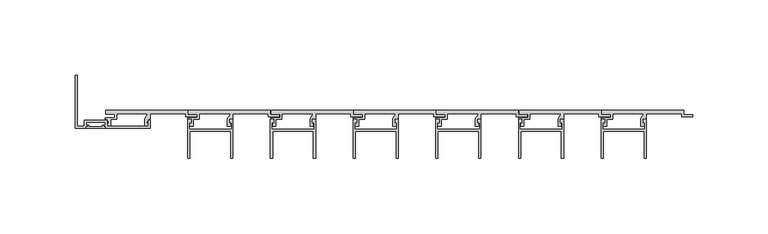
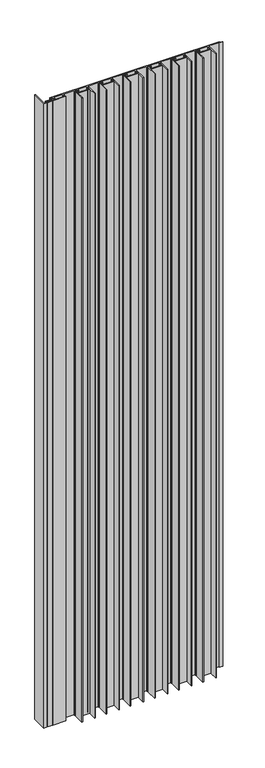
"""IFC4 building model written with IfcOpenShell, lengths in millimetres: proxy geometry, A_GEN_LINE_Small Base_Blade Cap_LTrim : A_GEN_LINE_Small Base_Blade Cap_LTrim."""

from ifc_helpers import new_model, si_unit, origin, origin_with_axes, place, context, project, spatial, polyline, outline, extrude, source, transform, mapped, element, save


def generic_models_7a0f7bea(model_context):
    return source(origin(), model_context, "Body", "SweptSolid", [
        extrude(outline(polyline([(-13.0106499, -11.8818695), (-13.0106499, -10.9050009), (-12.1106499, -10.9050009), (-12.1106499, -10.0050009), (-11.2354943, -10.0050009), (-11.2354943, -10.9050009), (-2.1892046, -10.9050009), (-2.1892046, -10.0050009), (-1.314049, -10.0050009), (-1.314049, -10.9050009), (-0.414049, -10.9050009), (-0.414049, -11.8818695), (-13.0106499, -11.8818695)])), origin_with_axes(), (0.0, 0.0, 1.0), 1500.0),
        extrude(outline(polyline([(-0.414049, -10.9050009), (-1.314049, -10.9050009), (-1.314049, -10.0050009), (-0.414049, -10.0050009), (-0.414049, -7.8818695), (-13.0306499, -7.8818695), (-13.0306499, -10.0050009), (-12.1306499, -10.0050009), (-12.1306499, -10.9050009), (-13.0306499, -10.9050009), (-13.0306499, -11.8818695), (-20.3575953, -11.8818695), (-20.3575953, 23.3746551), (-18.9575953, 23.3746551), (-18.9575953, -10.4818695), (-14.4306499, -10.4818695), (-14.4306499, -6.4818695), (0.985951, -6.4818695), (0.985951, -10.4818695), (28.1839928, -10.4818695), (28.1839928, -6.4818695), (29.5839928, -6.4818695), (29.5839928, -11.8818695), (-0.414049, -11.8818695), (-0.414049, -10.9050009)])), origin_with_axes(), (0.0, 0.0, 1.0), 1500.0),
        extrude(outline(polyline([(329.5935072, -32.0289818), (329.5935072, -6.1), (331.8182244, -6.1), (331.8182244, -8.3419727), (330.5118276, -8.7617834), (330.5118276, -12.5079436), (358.6751868, -12.5079436), (358.6751868, -8.7374539), (357.4445002, -8.3419727), (357.4445002, -6.1), (359.5935072, -6.1), (359.5935072, -32.0289818), (358.1935072, -32.0289818), (358.1935072, -13.9079436), (330.9935072, -13.9079436), (330.9935072, -32.0289818), (329.5935072, -32.0289818)])), origin_with_axes(), (0.0, 0.0, 1.0), 1500.0),
        extrude(outline(polyline([(274.5919, -32.0289818), (274.5919, -6.1), (276.8166172, -6.1), (276.8166172, -8.3419727), (275.5102205, -8.7617834), (275.5102205, -12.5079436), (303.6735796, -12.5079436), (303.6735796, -8.7374539), (302.4428931, -8.3419727), (302.4428931, -6.1), (304.5919, -6.1), (304.5919, -32.0289818), (303.1919, -32.0289818), (303.1919, -13.9079436), (275.9919, -13.9079436), (275.9919, -32.0289818), (274.5919, -32.0289818)])), origin_with_axes(), (0.0, 0.0, 1.0), 1500.0),
        extrude(outline(polyline([(219.5902928, -32.0289818), (219.5902928, -6.1), (221.81501, -6.1), (221.81501, -8.3419727), (220.5086133, -8.7617834), (220.5086133, -12.5079436), (248.6719724, -12.5079436), (248.6719724, -8.7374539), (247.4412859, -8.3419727), (247.4412859, -6.1), (249.5902928, -6.1), (249.5902928, -32.0289818), (248.1902928, -32.0289818), (248.1902928, -13.9079436), (220.9902928, -13.9079436), (220.9902928, -32.0289818), (219.5902928, -32.0289818)])), origin_with_axes(), (0.0, 0.0, 1.0), 1500.0),
        extrude(outline(polyline([(164.5886856, -32.0289818), (164.5886856, -6.1), (166.8134028, -6.1), (166.8134028, -8.3419727), (165.5070061, -8.7617834), (165.5070061, -12.5079436), (193.6703652, -12.5079436), (193.6703652, -8.7374539), (192.4396787, -8.3419727), (192.4396787, -6.1), (194.5886856, -6.1), (194.5886856, -32.0289818), (193.1886856, -32.0289818), (193.1886856, -13.9079436), (165.9886856, -13.9079436), (165.9886856, -32.0289818), (164.5886856, -32.0289818)])), origin_with_axes(), (0.0, 0.0, 1.0), 1500.0),
        extrude(outline(polyline([(109.5870785, -32.0289818), (109.5870785, -6.1), (111.8117956, -6.1), (111.8117956, -8.3419727), (110.5053989, -8.7617834), (110.5053989, -12.5079436), (138.668758, -12.5079436), (138.668758, -8.7374539), (137.4380715, -8.3419727), (137.4380715, -6.1), (139.5870785, -6.1), (139.5870785, -32.0289818), (138.1870785, -32.0289818), (138.1870785, -13.9079436), (110.9870785, -13.9079436), (110.9870785, -32.0289818), (109.5870785, -32.0289818)])), origin_with_axes(), (0.0, 0.0, 1.0), 1500.0),
        extrude(outline(polyline([(54.5854713, -32.0289818), (54.5854713, -6.1), (56.8101884, -6.1), (56.8101884, -8.3419727), (55.5037917, -8.7617834), (55.5037917, -12.5079436), (83.6671508, -12.5079436), (83.6671508, -8.7374539), (82.4364643, -8.3419727), (82.4364643, -6.1), (84.5854713, -6.1), (84.5854713, -32.0289818), (83.1854713, -32.0289818), (83.1854713, -13.9079436), (55.9854713, -13.9079436), (55.9854713, -32.0289818), (54.5854713, -32.0289818)])), origin_with_axes(), (0.0, 0.0, 1.0), 1500.0),
        extrude(outline(polyline([(330.0, 0.0), (384.5728944, 0.0), (384.5728944, -2.85), (390.5728944, -2.85), (390.5728944, -4.2), (383.0545393, -4.2), (383.0545393, -2.4), (359.5849719, -2.4), (359.5849719, -6.1021884), (358.4699984, -6.1021884), (356.8814326, -8.4994005), (358.1433665, -8.4994005), (358.1433665, -10.4818695), (355.9408405, -10.4818695), (355.9408405, -5.6343123), (358.0399616, -2.4), (337.2195527, -2.4), (337.2195527, -6.1), (333.2291033, -6.1), (333.2291033, -10.4818695), (331.0265772, -10.4818695), (331.0265772, -8.4994005), (332.2885111, -8.4994005), (330.6999453, -6.1021884), (329.6137598, -6.1021884), (329.6137598, -4.9), (336.0195527, -4.9), (336.0195527, -2.7), (330.0, -2.7), (330.0, 0.0)])), origin_with_axes(), (0.0, 0.0, 1.0), 1500.0),
        extrude(outline(polyline([(275.0, 0.0), (329.5728944, 0.0), (329.5728944, -2.85), (335.5728944, -2.85), (335.5728944, -4.2), (328.0545393, -4.2), (328.0545393, -2.4), (304.5849719, -2.4), (304.5849719, -6.1021884), (303.4699984, -6.1021884), (301.8814326, -8.4994005), (303.1433665, -8.4994005), (303.1433665, -10.4818695), (300.9408405, -10.4818695), (300.9408405, -5.6343123), (303.0399616, -2.4), (282.2195527, -2.4), (282.2195527, -6.1), (278.2291033, -6.1), (278.2291033, -10.4818695), (276.0265772, -10.4818695), (276.0265772, -8.4994005), (277.2885111, -8.4994005), (275.6999453, -6.1021884), (274.6137598, -6.1021884), (274.6137598, -4.9), (281.0195527, -4.9), (281.0195527, -2.7), (275.0, -2.7), (275.0, 0.0)])), origin_with_axes(), (0.0, 0.0, 1.0), 1500.0),
        extrude(outline(polyline([(220.0, 0.0), (274.5728944, 0.0), (274.5728944, -2.85), (280.5728944, -2.85), (280.5728944, -4.2), (273.0545393, -4.2), (273.0545393, -2.4), (249.5849719, -2.4), (249.5849719, -6.1021884), (248.4699984, -6.1021884), (246.8814326, -8.4994005), (248.1433665, -8.4994005), (248.1433665, -10.4818695), (245.9408405, -10.4818695), (245.9408405, -5.6343123), (248.0399616, -2.4), (227.2195527, -2.4), (227.2195527, -6.1), (223.2291033, -6.1), (223.2291033, -10.4818695), (221.0265772, -10.4818695), (221.0265772, -8.4994005), (222.2885111, -8.4994005), (220.6999453, -6.1021884), (219.6137598, -6.1021884), (219.6137598, -4.9), (226.0195527, -4.9), (226.0195527, -2.7), (220.0, -2.7), (220.0, 0.0)])), origin_with_axes(), (0.0, 0.0, 1.0), 1500.0),
        extrude(outline(polyline([(165.0, 0.0), (219.5728944, 0.0), (219.5728944, -2.85), (225.5728944, -2.85), (225.5728944, -4.2), (218.0545393, -4.2), (218.0545393, -2.4), (194.5849719, -2.4), (194.5849719, -6.1021884), (193.4699984, -6.1021884), (191.8814326, -8.4994005), (193.1433665, -8.4994005), (193.1433665, -10.4818695), (190.9408405, -10.4818695), (190.9408405, -5.6343123), (193.0399616, -2.4), (172.2195527, -2.4), (172.2195527, -6.1), (168.2291033, -6.1), (168.2291033, -10.4818695), (166.0265772, -10.4818695), (166.0265772, -8.4994005), (167.2885111, -8.4994005), (165.6999453, -6.1021884), (164.6137598, -6.1021884), (164.6137598, -4.9), (171.0195527, -4.9), (171.0195527, -2.7), (165.0, -2.7), (165.0, 0.0)])), origin_with_axes(), (0.0, 0.0, 1.0), 1500.0),
        extrude(outline(polyline([(110.0, 0.0), (164.5728944, 0.0), (164.5728944, -2.85), (170.5728944, -2.85), (170.5728944, -4.2), (163.0545393, -4.2), (163.0545393, -2.4), (139.5849719, -2.4), (139.5849719, -6.1021884), (138.4699984, -6.1021884), (136.8814326, -8.4994005), (138.1433665, -8.4994005), (138.1433665, -10.4818695), (135.9408405, -10.4818695), (135.9408405, -5.6343123), (138.0399616, -2.4), (117.2195527, -2.4), (117.2195527, -6.1), (113.2291033, -6.1), (113.2291033, -10.4818695), (111.0265772, -10.4818695), (111.0265772, -8.4994005), (112.2885111, -8.4994005), (110.6999453, -6.1021884), (109.6137598, -6.1021884), (109.6137598, -4.9), (116.0195527, -4.9), (116.0195527, -2.7), (110.0, -2.7), (110.0, 0.0)])), origin_with_axes(), (0.0, 0.0, 1.0), 1500.0),
        extrude(outline(polyline([(55.0, 0.0), (109.5728944, 0.0), (109.5728944, -2.85), (115.5728944, -2.85), (115.5728944, -4.2), (108.0545393, -4.2), (108.0545393, -2.4), (84.5849719, -2.4), (84.5849719, -6.1021884), (83.4699984, -6.1021884), (81.8814326, -8.4994005), (83.1433665, -8.4994005), (83.1433665, -10.4818695), (80.9408405, -10.4818695), (80.9408405, -5.6343123), (83.0399616, -2.4), (62.2195527, -2.4), (62.2195527, -6.1), (58.2291033, -6.1), (58.2291033, -10.4818695), (56.0265772, -10.4818695), (56.0265772, -8.4994005), (57.2885111, -8.4994005), (55.6999453, -6.1021884), (54.6137598, -6.1021884), (54.6137598, -4.9), (61.0195527, -4.9), (61.0195527, -2.7), (55.0, -2.7), (55.0, 0.0)])), origin_with_axes(), (0.0, 0.0, 1.0), 1500.0),
        extrude(outline(polyline([(0.0, 0.0), (54.5728944, 0.0), (54.5728944, -2.85), (60.5728944, -2.85), (60.5728944, -4.2), (53.0545393, -4.2), (53.0545393, -2.4), (29.5849719, -2.4), (29.5849719, -6.1021884), (28.4699984, -6.1021884), (26.8814326, -8.4994005), (28.1433665, -8.4994005), (28.1433665, -10.4818695), (25.9408405, -10.4818695), (25.9408405, -5.6343123), (28.0399616, -2.4), (7.2195527, -2.4), (7.2195527, -6.1), (3.2291033, -6.1), (3.2291033, -10.4818695), (1.0265772, -10.4818695), (1.0265772, -8.4994005), (2.2885111, -8.4994005), (0.6999453, -6.1021884), (-0.3862402, -6.1021884), (-0.3862402, -4.9), (6.0195527, -4.9), (6.0195527, -2.7), (0.0, -2.7), (0.0, 0.0)])), origin_with_axes(), (0.0, 0.0, 1.0), 1500.0),
    ])


if __name__ == "__main__":
    model = new_model("IFC4")
    model_context = context("Model", 3, world=origin())
    ifc_project = project(units=[si_unit("LENGTHUNIT", "METRE", prefix="MILLI")], contexts=[model_context])
    site = spatial("IfcSite", under=ifc_project)
    building = spatial("IfcBuilding", under=site)
    placement = place(None, origin())
    generic_models_shape = generic_models_7a0f7bea(model_context)
    element("IfcBuildingElementProxy", 1, Name="A_GEN_LINE_Small Base_Blade Cap_LTrim : A_GEN_LINE_Small Base_Blade Cap_LTrim", ObjectType="A_GEN_LINE_Small Base_Blade Cap_LTrim : A_GEN_LINE_Small Base_Blade Cap_LTrim", at=placement, inside=building, context=model_context, shape_type="MappedRepresentation", body=[
        mapped(generic_models_shape, transform((0.0, 0.0, 0.0), x_axis=(1.0, 0.0, 0.0), y_axis=(0.0, 1.0, 0.0), z_axis=(0.0, 0.0, 1.0))),
    ])
    save(model, "model.ifc")
